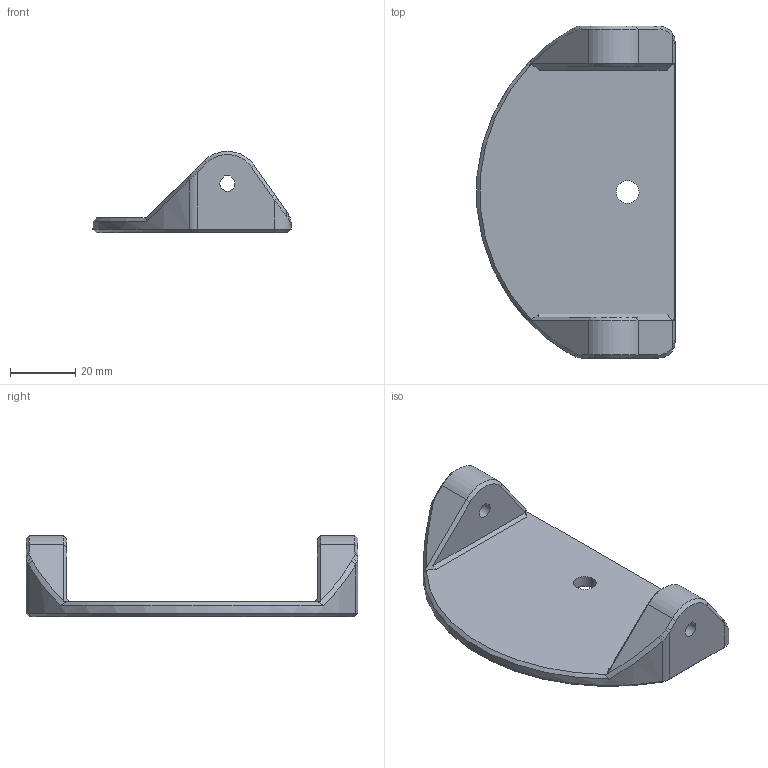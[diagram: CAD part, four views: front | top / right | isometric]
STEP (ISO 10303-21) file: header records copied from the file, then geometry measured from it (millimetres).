
FILE_DESCRIPTION(/* description */ (''),/* implementation_level */ '2;1');
FILE_NAME(/* name */ 'C:/Users/Brien.ALLISON/3D Objects/3D Objects/3D Print Files/My models/Miscellaneous/Monitor Camera mount/CMM Top.step',/* time_stamp */ '2019-05-02T16:12:12+01:00',/* author */ ('brienallison'),/* organization */ (''),/* preprocessor_version */ 'ST-DEVELOPER v18',/* originating_system */ 'Autodesk Translation Framework v8.2.0.1029',/* authorisation */ '');
FILE_SCHEMA (('AUTOMOTIVE_DESIGN { 1 0 10303 214 3 1 1 }'));
Length unit declared in the file: millimetre
Products named in the file (1): Camera mount
Bounding box: 60.87 x 102 x 24.97 mm (x, y, z)
Volume: 36024.5 mm3; surface area: 14401.7 mm2
Topology: 1 solids, 1 shells, 74 faces, 191 edges, 119 vertices
Faces by surface type: plane 32, bspline 18, cone 13, cylinder 11
Full cylindrical faces by diameter (mm): 7 x1
Entity records: 2765 total; most frequent: CARTESIAN_POINT 1063, ORIENTED_EDGE 382, DIRECTION 284, EDGE_CURVE 191, VERTEX_POINT 119, LINE 108, VECTOR 108, AXIS2_PLACEMENT_3D 88
